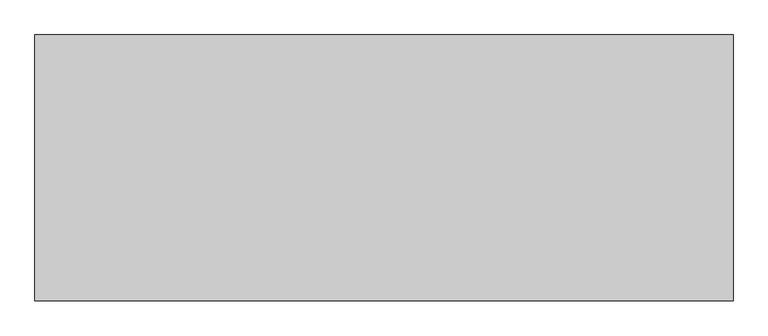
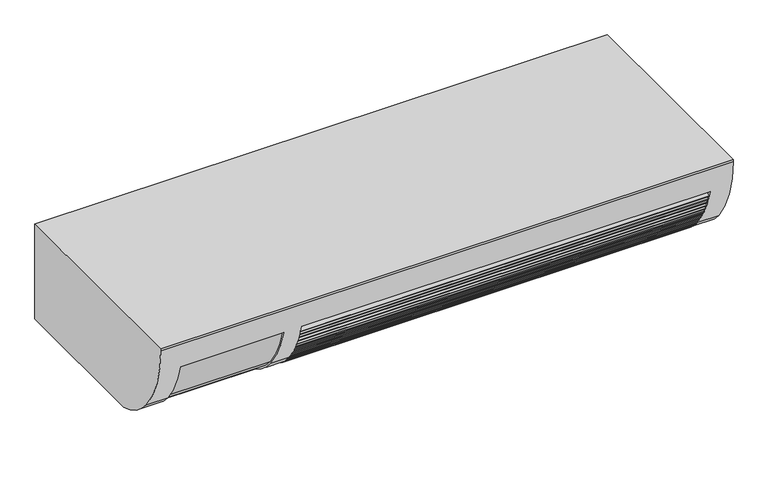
"""IFC4 building model written with IfcOpenShell, lengths in millimetres: proxy geometry, Equipamento - Ar-Condicionado Split : Equipamento - Ar-Condicionado Split."""

from ifc_helpers import new_model, si_unit, point, frame, frame_2d, origin, place, context, project, spatial, polyline, circle_curve, trimmed, segment, composite_curve, outline, extrude, source, transform, mapped, element, save
from ifc_brep_helpers import plane_surface, cylinder_surface, advanced_brep


def generic_models_585e0187(model_context):
    return source(origin(), model_context, "Body", "SolidModel", [
        extrude(outline(composite_curve([segment(polyline([(-319.4776579, 30.8913784), (-316.9690052, 30.8913784), (-328.2583568, 19.6020267)]), True, "CONTINUOUS"), segment(trimmed(circle_curve(frame_2d((-118.9662283, 81.9263021)), 218.3747017), [point((-328.2583568, 19.6020267))], [point((-328.8264585, 21.5425778))], False, "CARTESIAN"), True, "CONTINUOUS"), segment(polyline([(-328.8264585, 21.5425778), (-319.4776579, 30.8913784)]), True, "CONTINUOUS")], self_intersect=False)), frame((-268.2875, 0.0, 0.0), z_axis=(1.0, 0.0, 0.0), x_axis=(0.0, 1.0, 0.0)), (0.0, 0.0, 1.0), 762.0),
        extrude(outline(composite_curve([segment(polyline([(-314.5297343, 25.1761461), (-312.0210815, 25.1761461), (-322.2277844, 14.9694433)]), True, "CONTINUOUS"), segment(trimmed(circle_curve(frame_2d((-115.5203138, 85.3933878)), 218.3747017), [point((-322.2277844, 14.9694433))], [point((-322.8581951, 16.8476853))], False, "CARTESIAN"), True, "CONTINUOUS"), segment(polyline([(-322.8581951, 16.8476853), (-314.5297343, 25.1761461)]), True, "CONTINUOUS")], self_intersect=False)), frame((-268.2875, 0.0, 0.0), z_axis=(1.0, 0.0, 0.0), x_axis=(0.0, 1.0, 0.0)), (0.0, 0.0, 1.0), 762.0),
        extrude(outline(composite_curve([segment(polyline([(-331.4326396, 40.2627085), (-328.9239869, 40.2627085), (-340.4921538, 28.6945416)]), True, "CONTINUOUS"), segment(trimmed(circle_curve(frame_2d((-130.9879238, 90.3020736)), 218.3747017), [point((-340.4921538, 28.6945416))], [point((-341.0546522, 30.6406959))], False, "CARTESIAN"), True, "CONTINUOUS"), segment(polyline([(-341.0546522, 30.6406959), (-331.4326396, 40.2627085)]), True, "CONTINUOUS")], self_intersect=False)), frame((-268.2875, 0.0, 0.0), z_axis=(1.0, 0.0, 0.0), x_axis=(0.0, 1.0, 0.0)), (0.0, 0.0, 1.0), 762.0),
        extrude(outline(composite_curve([segment(polyline([(-324.6226585, 36.4095337), (-322.1140058, 36.4095337), (-334.7528429, 23.7706966)]), True, "CONTINUOUS"), segment(trimmed(circle_curve(frame_2d((-128.0347017, 94.1633132)), 218.3747017), [point((-334.7528429, 23.7706966))], [point((-335.3830159, 25.6491763))], False, "CARTESIAN"), True, "CONTINUOUS"), segment(polyline([(-335.3830159, 25.6491763), (-324.6226585, 36.4095337)]), True, "CONTINUOUS")], self_intersect=False)), frame((-268.2875, 0.0, 0.0), z_axis=(1.0, 0.0, 0.0), x_axis=(0.0, 1.0, 0.0)), (0.0, 0.0, 1.0), 762.0),
        extrude(outline(composite_curve([segment(polyline([(-340.0589515, 52.9627085), (-337.5502987, 52.9627085), (-350.7720685, 39.7409387)]), True, "CONTINUOUS"), segment(trimmed(circle_curve(frame_2d((-141.2359265, 101.2398457)), 218.3747017), [point((-350.7720685, 39.7409387))], [point((-351.3337164, 41.6879436))], False, "CARTESIAN"), True, "CONTINUOUS"), segment(polyline([(-351.3337164, 41.6879436), (-340.0589515, 52.9627085)]), True, "CONTINUOUS")], self_intersect=False)), frame((-268.2875, 0.0, 0.0), z_axis=(1.0, 0.0, 0.0), x_axis=(0.0, 1.0, 0.0)), (0.0, 0.0, 1.0), 762.0),
        extrude(outline(composite_curve([segment(polyline([(-340.3322766, 42.0262275), (-337.8236238, 42.0262275), (-345.6043096, 34.2455417)]), True, "CONTINUOUS"), segment(trimmed(circle_curve(frame_2d((-138.614959, 103.8366267)), 218.3747017), [point((-345.6043096, 34.2455417))], [point((-346.2283932, 36.1301108))], False, "CARTESIAN"), True, "CONTINUOUS"), segment(polyline([(-346.2283932, 36.1301108), (-340.3322766, 42.0262275)]), True, "CONTINUOUS")], self_intersect=False)), frame((-268.2875, 0.0, 0.0), z_axis=(1.0, 0.0, 0.0), x_axis=(0.0, 1.0, 0.0)), (0.0, 0.0, 1.0), 762.0),
        extrude(outline(composite_curve([segment(polyline([(-348.6852633, 65.6627085), (-346.1766106, 65.6627085), (-361.010567, 50.8287521)]), True, "CONTINUOUS"), segment(trimmed(circle_curve(frame_2d((-151.2868523, 111.6849254)), 218.3747017), [point((-361.010567, 50.8287521))], [point((-361.5671748, 52.7807971))], False, "CARTESIAN"), True, "CONTINUOUS"), segment(polyline([(-361.5671748, 52.7807971), (-348.6852633, 65.6627085)]), True, "CONTINUOUS")], self_intersect=False)), frame((-268.2875, 0.0, 0.0), z_axis=(1.0, 0.0, 0.0), x_axis=(0.0, 1.0, 0.0)), (0.0, 0.0, 1.0), 762.0),
        extrude(outline(composite_curve([segment(polyline([(-346.4836613, 57.2011546), (-343.9750086, 57.2011546), (-356.4549651, 44.721198)]), True, "CONTINUOUS"), segment(trimmed(circle_curve(frame_2d((-149.516092, 114.4622416)), 218.3747017), [point((-356.4549651, 44.721198))], [point((-357.0801892, 46.6046267))], False, "CARTESIAN"), True, "CONTINUOUS"), segment(polyline([(-357.0801892, 46.6046267), (-346.4836613, 57.2011546)]), True, "CONTINUOUS")], self_intersect=False)), frame((-268.2875, 0.0, 0.0), z_axis=(1.0, 0.0, 0.0), x_axis=(0.0, 1.0, 0.0)), (0.0, 0.0, 1.0), 762.0),
        extrude(outline(composite_curve([segment(polyline([(-356.3019694, 79.3723143), (-353.7933166, 79.3723143), (-369.4031905, 63.7624404)]), True, "CONTINUOUS"), segment(trimmed(circle_curve(frame_2d((-160.2538546, 126.564237)), 218.3747017), [point((-369.4031905, 63.7624404))], [point((-369.9750166, 65.699267))], False, "CARTESIAN"), True, "CONTINUOUS"), segment(polyline([(-369.9750166, 65.699267), (-356.3019694, 79.3723143)]), True, "CONTINUOUS")], self_intersect=False)), frame((-268.2875, 0.0, 0.0), z_axis=(1.0, 0.0, 0.0), x_axis=(0.0, 1.0, 0.0)), (0.0, 0.0, 1.0), 762.0),
        extrude(outline(composite_curve([segment(polyline([(-353.9160464, 71.0950813), (-351.4073937, 71.0950813), (-365.1330365, 57.3694385)]), True, "CONTINUOUS"), segment(trimmed(circle_curve(frame_2d((-158.4830944, 127.9620144)), 218.3747017), [point((-365.1330365, 57.3694385))], [point((-365.7647262, 59.2464015))], False, "CARTESIAN"), True, "CONTINUOUS"), segment(polyline([(-365.7647262, 59.2464015), (-353.9160464, 71.0950813)]), True, "CONTINUOUS")], self_intersect=False)), frame((-268.2875, 0.0, 0.0), z_axis=(1.0, 0.0, 0.0), x_axis=(0.0, 1.0, 0.0)), (0.0, 0.0, 1.0), 762.0),
        extrude(outline(composite_curve([segment(polyline([(-365.1138933, 91.8867022), (-362.6052405, 91.8867022), (-377.6433114, 76.8486313)]), True, "CONTINUOUS"), segment(trimmed(circle_curve(frame_2d((-168.2354721, 138.7830095)), 218.3747017), [point((-377.6433114, 76.8486313))], [point((-378.208367, 78.7922285))], False, "CARTESIAN"), True, "CONTINUOUS"), segment(polyline([(-378.208367, 78.7922285), (-365.1138933, 91.8867022)]), True, "CONTINUOUS")], self_intersect=False)), frame((-268.2875, 0.0, 0.0), z_axis=(1.0, 0.0, 0.0), x_axis=(0.0, 1.0, 0.0)), (0.0, 0.0, 1.0), 762.0),
        extrude(outline(composite_curve([segment(polyline([(-362.1367394, 84.2007002), (-359.6280866, 84.2007002), (-373.343401, 70.4853858)]), True, "CONTINUOUS"), segment(trimmed(circle_curve(frame_2d((-166.8588658, 141.5603257)), 218.3747017), [point((-373.343401, 70.4853858))], [point((-373.9787455, 72.3586941))], False, "CARTESIAN"), True, "CONTINUOUS"), segment(polyline([(-373.9787455, 72.3586941), (-362.1367394, 84.2007002)]), True, "CONTINUOUS")], self_intersect=False)), frame((-268.2875, 0.0, 0.0), z_axis=(1.0, 0.0, 0.0), x_axis=(0.0, 1.0, 0.0)), (0.0, 0.0, 1.0), 762.0),
        extrude(outline(composite_curve([segment(polyline([(-373.4079948, 104.9189126), (-370.899342, 104.9189126), (-385.1038042, 90.7144504)]), True, "CONTINUOUS"), segment(trimmed(circle_curve(frame_2d((-175.9664705, 153.5562041)), 218.3747017), [point((-385.1038042, 90.7144504))], [point((-385.6759417, 92.6509657))], False, "CARTESIAN"), True, "CONTINUOUS"), segment(polyline([(-385.6759417, 92.6509657), (-373.4079948, 104.9189126)]), True, "CONTINUOUS")], self_intersect=False)), frame((-268.2875, 0.0, 0.0), z_axis=(1.0, 0.0, 0.0), x_axis=(0.0, 1.0, 0.0)), (0.0, 0.0, 1.0), 762.0),
        extrude(outline(composite_curve([segment(polyline([(-369.667663, 97.9960885), (-367.1590102, 97.9960885), (-381.7299251, 83.4251736)]), True, "CONTINUOUS"), segment(trimmed(circle_curve(frame_2d((-175.2346373, 154.4688676)), 218.3747017), [point((-381.7299251, 83.4251736))], [point((-382.365033, 85.2987184))], False, "CARTESIAN"), True, "CONTINUOUS"), segment(polyline([(-382.365033, 85.2987184), (-369.667663, 97.9960885)]), True, "CONTINUOUS")], self_intersect=False)), frame((-268.2875, 0.0, 0.0), z_axis=(1.0, 0.0, 0.0), x_axis=(0.0, 1.0, 0.0)), (0.0, 0.0, 1.0), 762.0),
        extrude(outline(composite_curve([segment(polyline([(-378.8584411, 120.7947781), (-376.3497884, 120.7947781), (-390.5542506, 106.5903158)]), True, "CONTINUOUS"), segment(trimmed(circle_curve(frame_2d((-181.4169169, 169.4320696)), 218.3747017), [point((-390.5542506, 106.5903158))], [point((-391.126388, 108.5268311))], False, "CARTESIAN"), True, "CONTINUOUS"), segment(polyline([(-391.126388, 108.5268311), (-378.8584411, 120.7947781)]), True, "CONTINUOUS")], self_intersect=False)), frame((-268.2875, 0.0, 0.0), z_axis=(1.0, 0.0, 0.0), x_axis=(0.0, 1.0, 0.0)), (0.0, 0.0, 1.0), 762.0),
        extrude(outline(composite_curve([segment(polyline([(-377.494202, 111.4958613), (-374.9855492, 111.4958613), (-387.9584567, 98.5229538)]), True, "CONTINUOUS"), segment(trimmed(circle_curve(frame_2d((-181.4169169, 169.4320696)), 218.3747017), [point((-387.9584567, 98.5229538))], [point((-388.5925454, 100.3975179))], False, "CARTESIAN"), True, "CONTINUOUS"), segment(polyline([(-388.5925454, 100.3975179), (-377.494202, 111.4958613)]), True, "CONTINUOUS")], self_intersect=False)), frame((-268.2875, 0.0, 0.0), z_axis=(1.0, 0.0, 0.0), x_axis=(0.0, 1.0, 0.0)), (0.0, 0.0, 1.0), 762.0),
        extrude(outline(composite_curve([segment(polyline([(-385.4668225, 135.5127085), (-382.9581698, 135.5127085), (-396.3422586, 122.1286196)]), True, "CONTINUOUS"), segment(trimmed(circle_curve(frame_2d((-187.0445745, 184.4342357)), 218.3747017), [point((-396.3422586, 122.1286196))], [point((-396.9102146, 124.0693164))], False, "CARTESIAN"), True, "CONTINUOUS"), segment(polyline([(-396.9102146, 124.0693164), (-385.4668225, 135.5127085)]), True, "CONTINUOUS")], self_intersect=False)), frame((-268.2875, 0.0, 0.0), z_axis=(1.0, 0.0, 0.0), x_axis=(0.0, 1.0, 0.0)), (0.0, 0.0, 1.0), 762.0),
        extrude(outline(composite_curve([segment(polyline([(-385.4668225, 124.8495526), (-382.9581698, 124.8495526), (-393.4568034, 114.3509189)]), True, "CONTINUOUS"), segment(trimmed(circle_curve(frame_2d((-186.7731519, 184.8447382)), 218.3747017), [point((-393.4568034, 114.3509189))], [point((-394.0877442, 116.2286309))], False, "CARTESIAN"), True, "CONTINUOUS"), segment(polyline([(-394.0877442, 116.2286309), (-385.4668225, 124.8495526)]), True, "CONTINUOUS")], self_intersect=False)), frame((-268.2875, 0.0, 0.0), z_axis=(1.0, 0.0, 0.0), x_axis=(0.0, 1.0, 0.0)), (0.0, 0.0, 1.0), 762.0),
        advanced_brep(
        [(533.4, -406.4, 184.15), (533.4, -360.0518276, 49.6346345), (533.4, -286.1455171, 0.0), (533.4, 0.0, 0.0), (533.4, 0.0, 187.325), (533.4, -406.4, 187.325), (-533.4, -406.4, 184.15), (-533.4, -406.4, 187.325), (-533.4, 0.0, 187.325), (-533.4, 0.0, 0.0), (-533.4, -286.1455171, 0.0), (-533.4, -360.0518276, 49.6346345), (493.7125, -248.2286294, 0.0), (493.7125, -37.8848794, 0.0), (-493.7125, -37.8848794, 0.0), (-493.7125, -248.2286294, 0.0), (493.7125, -360.0518276, 49.6346345), (493.7125, -311.0826973, 9.6447582), (-268.2875, -311.0826973, 9.6447582), (-268.2875, -360.0518276, 49.6346345), (-301.2875, -360.0518276, 49.6346345), (-301.2875, -311.0826973, 9.6447582), (-493.7125, -311.0826973, 9.6447582), (-493.7125, -360.0518276, 49.6346345), (-493.7125, -400.9147631, 135.5127085), (-301.2875, -400.9147631, 135.5127085), (-268.2875, -400.9147631, 135.5127085), (493.7125, -400.9147631, 135.5127085), (-493.7125, -248.2286294, 135.5127085), (-493.7125, -37.8848794, 135.5127085), (493.7125, -37.8848794, 135.5127085), (493.7125, -248.2286294, 135.5127085), (493.7125, -311.0826973, 135.5127085), (-268.2875, -311.0826973, 135.5127085), (-301.2875, -311.0826973, 14.2172208), (-301.2875, -398.0320677, 135.5127085), (-301.2875, -358.8003077, 53.3642563), (-493.7125, -398.0320677, 135.5127085), (-493.7125, -311.0826973, 14.2172208), (-493.7125, -358.8003077, 53.3642563)],
        [
            (0, 1, circle_curve(frame((533.4, -188.0252983, 184.15), z_axis=(1.0, 0.0, 0.0), x_axis=(0.0, 0.0, 1.0)), 218.3747017)),
            (1, 2, circle_curve(frame((533.4, -247.1326083, 137.9313066), z_axis=(1.0, 0.0, 0.0), x_axis=(0.0, 0.0, 1.0)), 143.3424305)),
            (2, 3),
            (3, 4),
            (4, 5),
            (5, 0),
            (6, 7),
            (7, 8),
            (8, 9),
            (9, 10),
            (10, 11, circle_curve(frame((-533.4, -247.1326083, 137.9313066), z_axis=(-1.0, 0.0, 0.0), x_axis=(0.0, 0.0, 1.0)), 143.3424305)),
            (11, 6, circle_curve(frame((-533.4, -188.0252983, 184.15), z_axis=(-1.0, 0.0, 0.0), x_axis=(0.0, 0.0, 1.0)), 218.3747017)),
            (5, 7),
            (6, 0),
            (4, 8),
            (3, 9),
            (2, 10),
            (12, 13),
            (13, 14),
            (14, 15),
            (15, 12),
            (1, 16),
            (16, 17, circle_curve(frame((493.7125, -247.1326083, 137.9313066), z_axis=(1.0, 0.0, 0.0), x_axis=(0.0, 0.0, 1.0)), 143.3424305)),
            (17, 18),
            (18, 19, circle_curve(frame((-268.2875, -247.1326083, 137.9313066), z_axis=(-1.0, 0.0, 0.0), x_axis=(0.0, 0.0, 1.0)), 143.3424305)),
            (19, 20),
            (20, 21, circle_curve(frame((-301.2875, -247.1326083, 137.9313066), z_axis=(1.0, 0.0, 0.0), x_axis=(0.0, 0.0, 1.0)), 143.3424305)),
            (21, 22),
            (22, 23, circle_curve(frame((-493.7125, -247.1326083, 137.9313066), z_axis=(-1.0, 0.0, 0.0), x_axis=(0.0, 0.0, 1.0)), 143.3424305)),
            (23, 11),
            (23, 24, circle_curve(frame((-493.7125, -188.0252983, 184.15), z_axis=(-1.0, 0.0, 0.0), x_axis=(0.0, 0.0, 1.0)), 218.3747017)),
            (24, 25),
            (25, 20, circle_curve(frame((-301.2875, -188.0252983, 184.15), z_axis=(1.0, 0.0, 0.0), x_axis=(0.0, 0.0, 1.0)), 218.3747017)),
            (19, 26, circle_curve(frame((-268.2875, -188.0252983, 184.15), z_axis=(-1.0, 0.0, 0.0), x_axis=(0.0, 0.0, 1.0)), 218.3747017)),
            (26, 27),
            (27, 16, circle_curve(frame((493.7125, -188.0252983, 184.15), z_axis=(1.0, 0.0, 0.0), x_axis=(0.0, 0.0, 1.0)), 218.3747017)),
            (28, 29),
            (29, 30),
            (30, 31),
            (31, 28),
            (31, 12),
            (15, 28),
            (30, 13),
            (29, 14),
            (27, 32),
            (32, 17),
            (18, 33),
            (33, 26),
            (33, 32),
            (34, 21),
            (25, 35),
            (35, 36, circle_curve(frame((-301.2875, -193.0758464, 182.9517482), z_axis=(1.0, 0.0, 0.0), x_axis=(0.0, 0.0, 1.0)), 210.3747017)),
            (36, 34, circle_curve(frame((-301.2875, -247.4566054, 140.42896), z_axis=(1.0, 0.0, 0.0), x_axis=(0.0, 0.0, 1.0)), 141.3424305)),
            (37, 24),
            (22, 38),
            (38, 39, circle_curve(frame((-493.7125, -247.4566054, 140.42896), z_axis=(-1.0, 0.0, 0.0), x_axis=(0.0, 0.0, 1.0)), 141.3424305)),
            (39, 37, circle_curve(frame((-493.7125, -193.0758464, 182.9517482), z_axis=(-1.0, 0.0, 0.0), x_axis=(0.0, 0.0, 1.0)), 210.3747017)),
            (37, 35),
            (34, 38),
            (39, 36),
        ],
        [
            plane_surface(frame((533.4, -406.4, 187.325), z_axis=(1.0, 0.0, 0.0), x_axis=(0.0, 0.0, 1.0))),
            plane_surface(frame((-533.4, -406.4, 187.325), z_axis=(-1.0, 0.0, 0.0), x_axis=(0.0, 0.0, -1.0))),
            plane_surface(frame((533.4, -406.4, 184.15), z_axis=(0.0, -1.0, 0.0), x_axis=(-1.0, 0.0, 0.0))),
            plane_surface(frame((533.4, -406.4, 187.325), z_axis=(0.0, 0.0, 1.0), x_axis=(-1.0, 0.0, 0.0))),
            plane_surface(frame((533.4, 0.0, 187.325), z_axis=(0.0, 1.0, 0.0), x_axis=(-1.0, 0.0, 0.0))),
            plane_surface(frame((533.4, 0.0, 0.0), z_axis=(0.0, 0.0, -1.0), x_axis=(-1.0, 0.0, 0.0))),
            cylinder_surface(frame((-533.4, -247.1326083, 137.9313066), z_axis=(1.0, 0.0, 0.0), x_axis=(0.0, 0.0, 1.0)), 143.3424305),
            cylinder_surface(frame((-533.4, -188.0252983, 184.15), z_axis=(1.0, 0.0, 0.0), x_axis=(0.0, 0.0, 1.0)), 218.3747017),
            plane_surface(frame((-493.7125, -190.2848794, 135.5127085), z_axis=(0.0, 0.0, -1.0), x_axis=(0.0, 1.0, 0.0))),
            plane_surface(frame((493.7125, -248.2286294, 135.5127085), z_axis=(0.0, 1.0, 0.0), x_axis=(0.0, 0.0, -1.0))),
            plane_surface(frame((493.7125, -37.8848794, 135.5127085), z_axis=(-1.0, 0.0, 0.0), x_axis=(0.0, 0.0, -1.0))),
            plane_surface(frame((-493.7125, -37.8848794, 135.5127085), z_axis=(0.0, -1.0, 0.0), x_axis=(0.0, 0.0, -1.0))),
            plane_surface(frame((-493.7125, -248.2286294, 135.5127085), z_axis=(1.0, 0.0, 0.0), x_axis=(0.0, 0.0, -1.0))),
            plane_surface(frame((493.7125, -412.6826973, 135.5127085), z_axis=(-1.0, 0.0, 0.0), x_axis=(0.0, 1.0, 0.0))),
            plane_surface(frame((-268.2875, -412.6826973, 135.5127085), z_axis=(1.0, 0.0, 0.0), x_axis=(0.0, -1.0, 0.0))),
            plane_surface(frame((493.7125, -406.2355233, 135.5127085), z_axis=(0.0, 0.0, -1.0), x_axis=(-1.0, 0.0, 0.0))),
            plane_surface(frame((493.7125, -311.0826973, 135.5127085), z_axis=(0.0, -1.0, 0.0), x_axis=(-1.0, 0.0, 0.0))),
            plane_surface(frame((-301.2875, -412.6826973, 135.5127085), z_axis=(-1.0, 0.0, 0.0), x_axis=(0.0, 1.0, 0.0))),
            plane_surface(frame((-493.7125, -412.6826973, 135.5127085), z_axis=(1.0, 0.0, 0.0), x_axis=(0.0, -1.0, 0.0))),
            plane_surface(frame((-301.2875, -406.2355233, 135.5127085), z_axis=(0.0, 0.0, -1.0), x_axis=(-1.0, 0.0, 0.0))),
            plane_surface(frame((-301.2875, -311.0826973, 14.2172208), z_axis=(0.0, -1.0, 0.0), x_axis=(-1.0, 0.0, 0.0))),
            cylinder_surface(frame((-493.7125, -193.0758464, 182.9517482), z_axis=(-1.0, 0.0, 0.0), x_axis=(0.0, 0.0, 1.0)), 210.3747017),
            cylinder_surface(frame((-493.7125, -247.4566054, 140.42896), z_axis=(-1.0, 0.0, 0.0), x_axis=(0.0, 0.0, 1.0)), 141.3424305),
        ],
        [
            (0, [[1, 2, 3, 4, 5, 6]]),
            (1, [[7, 8, 9, 10, 11, 12]]),
            (2, [[13, -7, 14, -6]]),
            (3, [[15, -8, -13, -5]]),
            (4, [[16, -9, -15, -4]]),
            (5, [[17, -10, -16, -3], [18, 19, 20, 21]]),
            (6, [[22, 23, 24, 25, 26, 27, 28, 29, 30, -11, -17, -2]]),
            (7, [[-14, -12, -30, 31, 32, 33, -26, 34, 35, 36, -22, -1]]),
            (8, [[37, 38, 39, 40]]),
            (9, [[41, -21, 42, -40]]),
            (10, [[43, -18, -41, -39]]),
            (11, [[44, -19, -43, -38]]),
            (12, [[-42, -20, -44, -37]]),
            (13, [[-23, -36, 45, 46]]),
            (14, [[-34, -25, 47, 48]]),
            (15, [[-45, -35, -48, 49]]),
            (16, [[-47, -24, -46, -49]]),
            (17, [[50, -27, -33, 51, 52, 53]]),
            (18, [[54, -31, -29, 55, 56, 57]]),
            (19, [[-51, -32, -54, 58]]),
            (20, [[-55, -28, -50, 59]]),
            (21, [[-58, -57, 60, -52]]),
            (22, [[-60, -56, -59, -53]]),
        ],
    ),
        extrude(outline(polyline([(-248.2286294, 7.2225343), (-248.2286294, 10.4140398), (-228.3848794, 3.1915055), (-228.3848794, 0.0), (-248.2286294, 7.2225343)])), frame((-493.7125, 0.0, 0.0), z_axis=(1.0, 0.0, 0.0), x_axis=(0.0, 1.0, 0.0)), (0.0, 0.0, 1.0), 987.425),
        extrude(outline(polyline([(-233.2030719, 8.6873116), (-233.2030719, 11.8788171), (-209.3348794, 3.1915055), (-209.3348794, 0.0), (-233.2030719, 8.6873116)])), frame((-493.7125, 0.0, 0.0), z_axis=(1.0, 0.0, 0.0), x_axis=(0.0, 1.0, 0.0)), (0.0, 0.0, 1.0), 987.425),
        extrude(outline(polyline([(-214.1530719, 8.6873116), (-214.1530719, 11.8788171), (-190.2848794, 3.1915055), (-190.2848794, 0.0), (-214.1530719, 8.6873116)])), frame((-493.7125, 0.0, 0.0), z_axis=(1.0, 0.0, 0.0), x_axis=(0.0, 1.0, 0.0)), (0.0, 0.0, 1.0), 987.425),
        extrude(outline(polyline([(-195.1030719, 8.6873116), (-195.1030719, 11.8788171), (-171.2348794, 3.1915055), (-171.2348794, 0.0), (-195.1030719, 8.6873116)])), frame((-493.7125, 0.0, 0.0), z_axis=(1.0, 0.0, 0.0), x_axis=(0.0, 1.0, 0.0)), (0.0, 0.0, 1.0), 987.425),
        extrude(outline(polyline([(-176.0530719, 8.6873116), (-176.0530719, 11.8788171), (-152.1848794, 3.1915055), (-152.1848794, 0.0), (-176.0530719, 8.6873116)])), frame((-493.7125, 0.0, 0.0), z_axis=(1.0, 0.0, 0.0), x_axis=(0.0, 1.0, 0.0)), (0.0, 0.0, 1.0), 987.425),
        extrude(outline(polyline([(-157.0030719, 8.6873116), (-157.0030719, 11.8788171), (-133.1348794, 3.1915055), (-133.1348794, 0.0), (-157.0030719, 8.6873116)])), frame((-493.7125, 0.0, 0.0), z_axis=(1.0, 0.0, 0.0), x_axis=(0.0, 1.0, 0.0)), (0.0, 0.0, 1.0), 987.425),
        extrude(outline(polyline([(-137.9530719, 8.6873116), (-137.9530719, 11.8788171), (-114.0848794, 3.1915055), (-114.0848794, 0.0), (-137.9530719, 8.6873116)])), frame((-493.7125, 0.0, 0.0), z_axis=(1.0, 0.0, 0.0), x_axis=(0.0, 1.0, 0.0)), (0.0, 0.0, 1.0), 987.425),
        extrude(outline(polyline([(-118.9030719, 8.6873116), (-118.9030719, 11.8788171), (-95.0348794, 3.1915055), (-95.0348794, 0.0), (-118.9030719, 8.6873116)])), frame((-493.7125, 0.0, 0.0), z_axis=(1.0, 0.0, 0.0), x_axis=(0.0, 1.0, 0.0)), (0.0, 0.0, 1.0), 987.425),
        extrude(outline(polyline([(-99.8530719, 8.6873116), (-99.8530719, 11.8788171), (-75.9848794, 3.1915055), (-75.9848794, 0.0), (-99.8530719, 8.6873116)])), frame((-493.7125, 0.0, 0.0), z_axis=(1.0, 0.0, 0.0), x_axis=(0.0, 1.0, 0.0)), (0.0, 0.0, 1.0), 987.425),
        extrude(outline(polyline([(-80.8030719, 8.6873116), (-80.8030719, 11.8788171), (-56.9348794, 3.1915055), (-56.9348794, 0.0), (-80.8030719, 8.6873116)])), frame((-493.7125, 0.0, 0.0), z_axis=(1.0, 0.0, 0.0), x_axis=(0.0, 1.0, 0.0)), (0.0, 0.0, 1.0), 987.425),
        extrude(outline(polyline([(-61.7530719, 8.6873116), (-61.7530719, 11.8788171), (-37.8848794, 3.1915055), (-37.8848794, 0.0), (-61.7530719, 8.6873116)])), frame((-493.7125, 0.0, 0.0), z_axis=(1.0, 0.0, 0.0), x_axis=(0.0, 1.0, 0.0)), (0.0, 0.0, 1.0), 987.425),
    ])


if __name__ == "__main__":
    model = new_model("IFC4")
    model_context = context("Model", 3, world=origin())
    ifc_project = project(units=[si_unit("LENGTHUNIT", "METRE", prefix="MILLI")], contexts=[model_context])
    site = spatial("IfcSite", under=ifc_project)
    building = spatial("IfcBuilding", under=site)
    placement = place(None, origin())
    generic_models_shape = generic_models_585e0187(model_context)
    element("IfcBuildingElementProxy", 1, Name="Equipamento - Ar-Condicionado Split : Equipamento - Ar-Condicionado Split", ObjectType="Equipamento - Ar-Condicionado Split : Equipamento - Ar-Condicionado Split", at=placement, inside=building, context=model_context, shape_type="MappedRepresentation", body=[
        mapped(generic_models_shape, transform((0.0, 0.0, 0.0), x_axis=(1.0, 0.0, 0.0), y_axis=(0.0, 1.0, 0.0), z_axis=(0.0, 0.0, 1.0))),
    ])
    save(model, "model.ifc")
